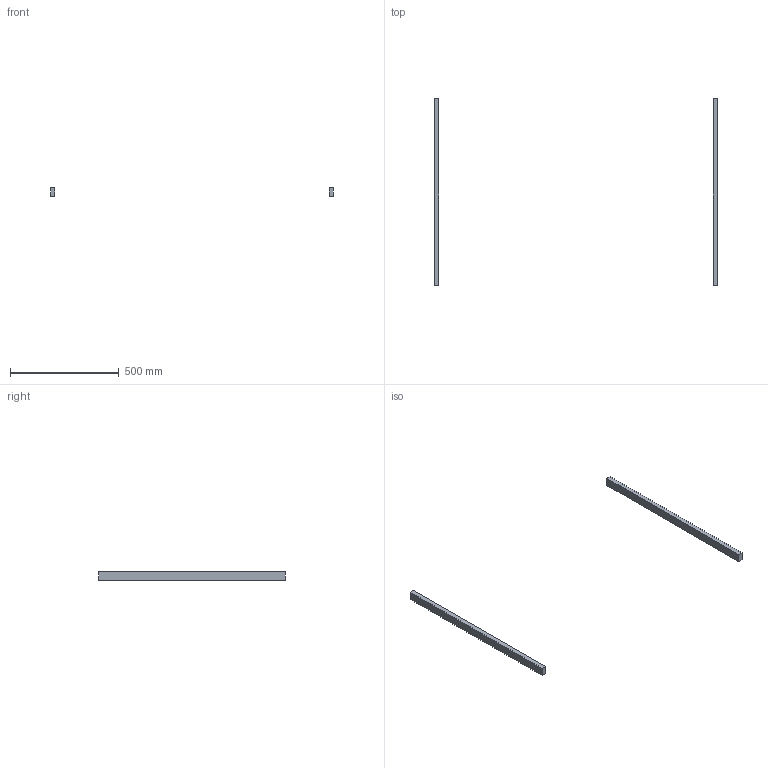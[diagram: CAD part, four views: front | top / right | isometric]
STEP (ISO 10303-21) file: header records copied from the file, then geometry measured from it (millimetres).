
FILE_DESCRIPTION(/* description */ (''),/* implementation_level */ '2;1');
FILE_NAME(/* name */ '12.frame-table#12.1#HFSB5-2040-858',/* time_stamp */ '2014-12-01T20:19:39+01:00',/* author */ (''),/* organization */ (''),/* preprocessor_version */ 'ST-DEVELOPER v14',/* originating_system */ '',/* authorisation */ '');
FILE_SCHEMA (('AUTOMOTIVE_DESIGN'));
Length unit declared in the file: millimetre
Products named in the file (1): Document
Bounding box: 1300 x 858 x 40 mm (x, y, z)
Volume: 1372800 mm3; surface area: 209120 mm2
Topology: 2 solids, 2 shells, 12 faces, 24 edges, 16 vertices
Faces by surface type: plane 12
Entity records: 571 total; most frequent: CARTESIAN_POINT 174, B_SPLINE_CURVE_WITH_KNOTS 72, ORIENTED_EDGE 48, PCURVE 48, DEFINITIONAL_REPRESENTATION 48, SURFACE_CURVE 24, EDGE_CURVE 24, VERTEX_POINT 16
